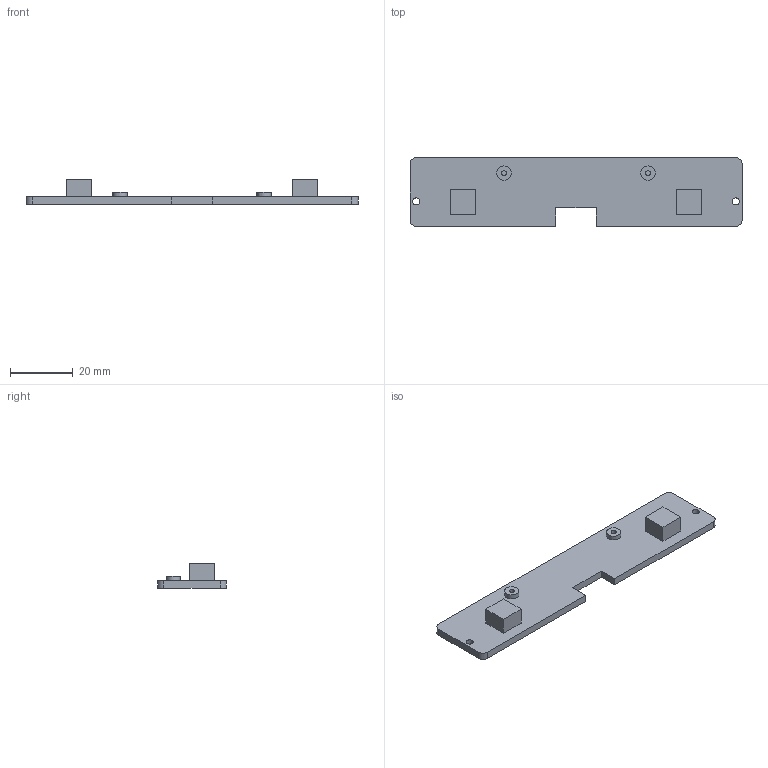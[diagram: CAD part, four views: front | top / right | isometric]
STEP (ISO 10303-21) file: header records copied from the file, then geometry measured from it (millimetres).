
FILE_DESCRIPTION(('FreeCAD Model'),'2;1');
FILE_NAME('Open CASCADE Shape Model','2026-10-20T15:18:15',('FreeCAD'),( 'FreeCAD'),'Open CASCADE STEP processor 7.8','FreeCAD','Unknown');
FILE_SCHEMA(('AUTOMOTIVE_DESIGN { 1 0 10303 214 1 1 1 1 }'));
Length unit declared in the file: millimetre
Products named in the file (1): Open CASCADE STEP translator 7.8 19
Bounding box: 106 x 22 x 7.85 mm (x, y, z)
Volume: 6119.6 mm3; surface area: 5569.4 mm2
Topology: 1 solids, 1 shells, 34 faces, 78 edges, 52 vertices
Faces by surface type: plane 24, cylinder 10
Full cylindrical faces by diameter (mm): 1.6 x2, 2.3 x2, 4.6 x2
Entity records: 980 total; most frequent: DIRECTION 168, CARTESIAN_POINT 165, ORIENTED_EDGE 156, EDGE_CURVE 78, LINE 58, VECTOR 58, AXIS2_PLACEMENT_3D 55, VERTEX_POINT 52
